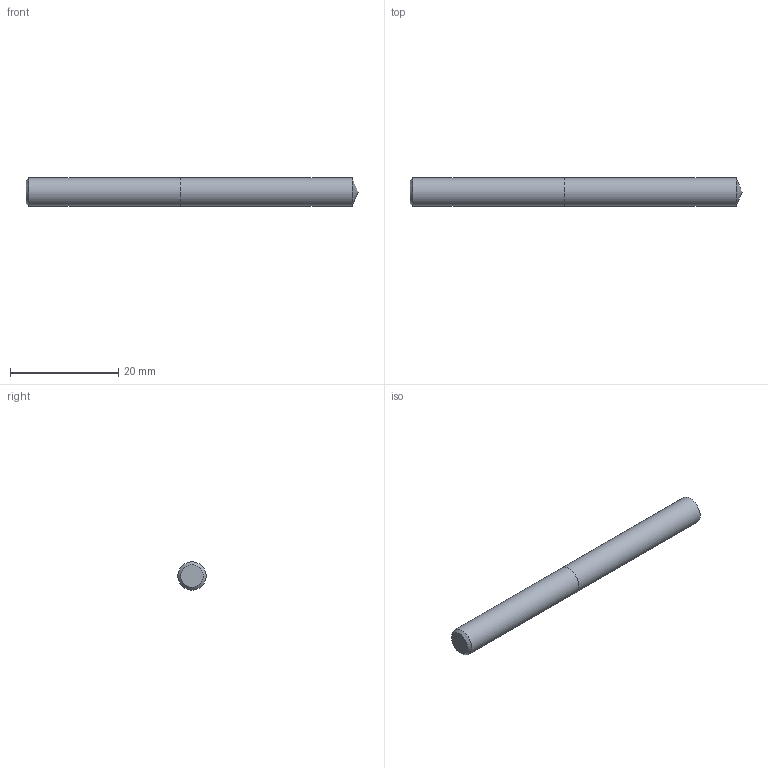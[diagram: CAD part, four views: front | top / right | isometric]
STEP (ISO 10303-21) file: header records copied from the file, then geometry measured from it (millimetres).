
FILE_DESCRIPTION (( 'STEP AP214' ), '1' );
FILE_NAME ('03-2347.STEP', '2022-06-03T06:32:24', ( 'USER' ), ( '' ), 'SwSTEP 2.0', 'SolidWorks 2018', '' );
FILE_SCHEMA (( 'AUTOMOTIVE_DESIGN' ));
Length unit declared in the file: inch
Products named in the file (1): 03-2347
Bounding box: 61.41 x 5.22 x 5.22 mm (x, y, z)
Volume: 1296.5 mm3; surface area: 1071.2 mm2
Topology: 2 solids, 2 shells, 7 faces, 11 edges, 7 vertices
Faces by surface type: plane 3, cylinder 2, cone 2
Full cylindrical faces by diameter (mm): 5.22 x2
Entity records: 214 total; most frequent: DIRECTION 26, CARTESIAN_POINT 18, AXIS2_PLACEMENT_3D 13, EDGE_LOOP 10, ORIENTED_EDGE 10, FACE_OUTER_BOUND 9, DIMENSIONAL_EXPONENTS 7, UNCERTAINTY_MEASURE_WITH_UNIT 7
